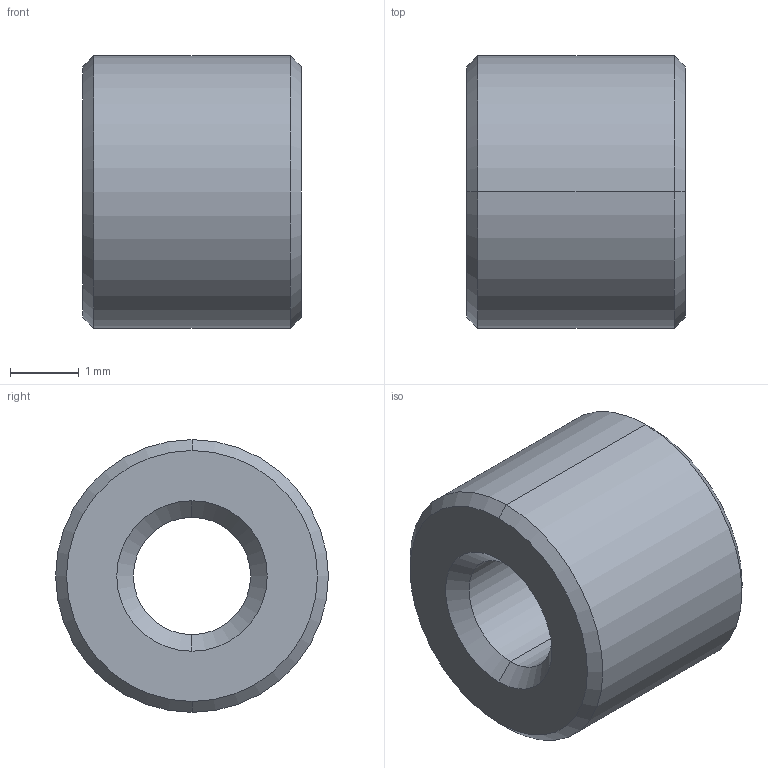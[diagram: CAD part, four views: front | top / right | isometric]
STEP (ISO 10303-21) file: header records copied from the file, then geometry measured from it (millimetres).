
FILE_DESCRIPTION(('starvars output'),'2;1');
FILE_NAME('cv20190724092917000007950.stp','09:29:17 2019/07/24',( 'Thomas Industrial Network Germany GmbH'),( 'Thomas Industrial Network Germany GmbH'),'unknown preprocess','ACIS' ,'unknown authorization');
FILE_SCHEMA(('AUTOMOTIVE_DESIGN_CC2 {UNKNOWN IMPLEMENTATION LEVEL}'));
Length unit declared in the file: millimetre
Products named in the file (1): PRODUCT_ID_1
Bounding box: 3.17 x 3.96 x 3.96 mm (x, y, z)
Volume: 31.3 mm3; surface area: 72.9 mm2
Topology: 1 solids, 1 shells, 14 faces, 28 edges, 16 vertices
Faces by surface type: cone 8, cylinder 4, plane 2
Entity records: 493 total; most frequent: ORIENTED_EDGE 56, CARTESIAN_POINT 44, DIRECTION 44, EDGE_CURVE 28, VERTEX_POINT 16, AXIS2_PLACEMENT_3D 16, EDGE_LOOP 16, FACE_BOUND 16
